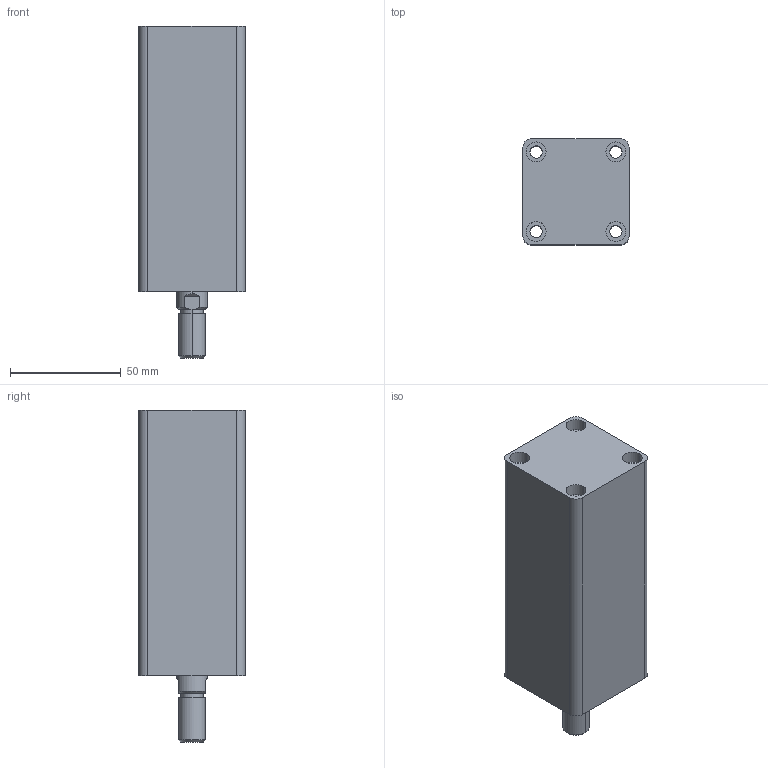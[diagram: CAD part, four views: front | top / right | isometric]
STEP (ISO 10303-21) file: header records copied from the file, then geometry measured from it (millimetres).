
FILE_DESCRIPTION (( 'STEP AP203' ), '1' );
FILE_NAME ('HTB-SD25-75W.STEP', '2019-10-07T06:19:28', ( '微软用户' ), ( '微软中国' ), 'SwSTEP 2.0', 'SolidWorks 2012', '' );
FILE_SCHEMA (( 'CONFIG_CONTROL_DESIGN' ));
Length unit declared in the file: millimetre
Products named in the file (3): HTB-SD25-75W; HTB-SD25-75掛极; HTB-SD25-75W活塞杆
Assembly tree (2 placements, depth 2):
  HTB-SD25-75W
    HTB-SD25-75掛极
    HTB-SD25-75W活塞杆
Bounding box: 48 x 48 x 150 mm (x, y, z)
Volume: 238573.6 mm3; surface area: 52254 mm2
Topology: 2 solids, 2 shells, 87 faces, 188 edges, 122 vertices
Faces by surface type: cylinder 44, plane 29, cone 8, torus 6
Entity records: 2759 total; most frequent: DIRECTION 476, CARTESIAN_POINT 446, ORIENTED_EDGE 376, AXIS2_PLACEMENT_3D 204, EDGE_CURVE 188, VERTEX_POINT 122, CIRCLE 112, EDGE_LOOP 112
